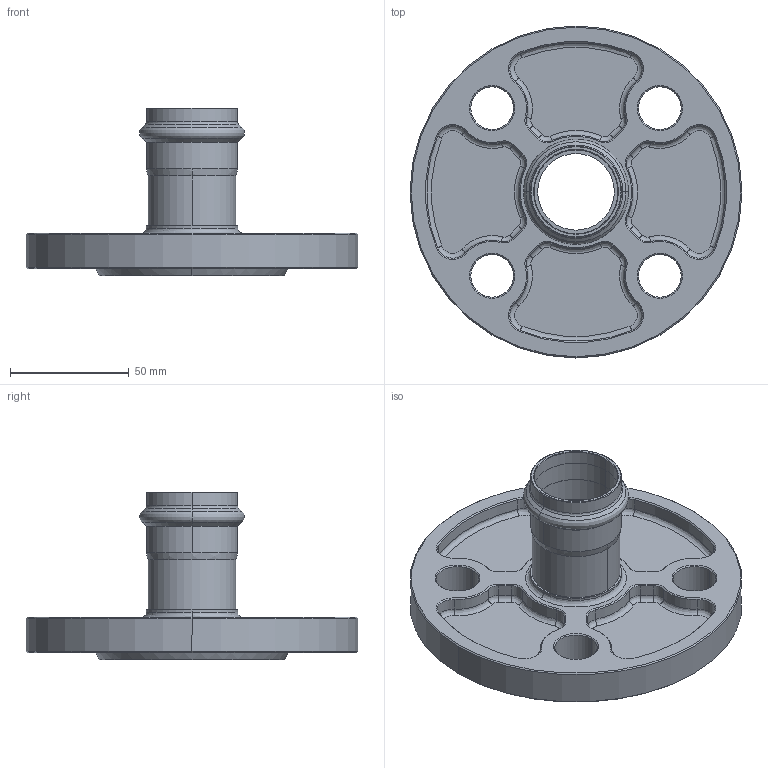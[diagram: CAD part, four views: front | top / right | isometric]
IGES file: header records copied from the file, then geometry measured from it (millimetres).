
Start section: Elysium IGES Interface
Global section: file name: C:\3d modellen sudo\S-Pr VP\SP6500V\6500VW35.igs; native system: CoCreate Modeling 17.00A  17-Jun-2010; preprocessor: CoCreate IGES_3D V2.2; author: Unknown; organization: Unknown; date: 20130129.102345; units: millimetre
Bounding box: 140 x 140 x 70.65 mm (x, y, z)
Volume: 172899.5 mm3; surface area: 55949.1 mm2
Topology: 1 solids, 1 shells, 273 faces, 608 edges, 352 vertices
Faces by surface type: bspline 273
